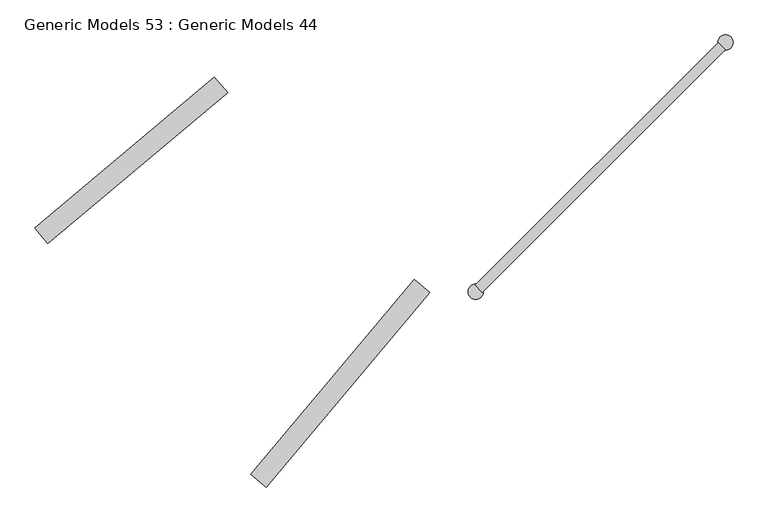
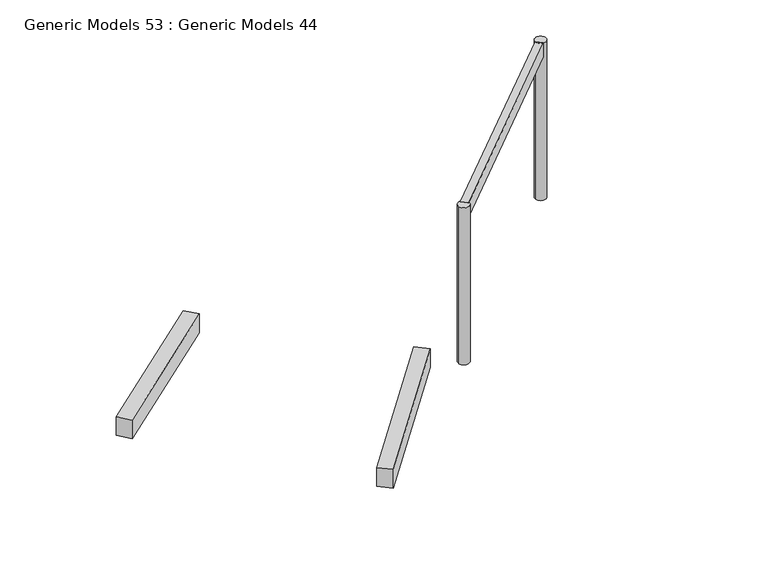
"""IFC4 building model written with IfcOpenShell, lengths in millimetres: proxy geometry, Generic Models 53 : Generic Models 44."""

from ifc_helpers import new_model, si_unit, point, frame, frame_2d, origin, place, context, project, spatial, polyline, circle_curve, trimmed, segment, composite_curve, outline, extrude, source, transform, mapped, element, save


def generic_models_53_generic_models_44_99a5b5ee(model_context):
    return source(origin(), model_context, "Body", "SweptSolid", [
        extrude(outline(polyline([(-86054.177163, -35737.0994253), (-86207.3860516, -35608.5419033), (-84596.358699, -33688.5942681), (-84443.1498104, -33817.1517901), (-86054.177163, -35737.0994253)])), frame((0.0, 0.0, 42770.0), z_axis=(0.0, 0.0, 1.0), x_axis=(1.0, 0.0, 0.0)), (0.0, 0.0, 1.0), 268.5053554),
        extrude(outline(polyline([(-88203.2040046, -33333.9533005), (-88331.7615265, -33180.7444118), (-86563.3938521, -31696.9077484), (-86434.8363301, -31850.116637), (-88203.2040046, -33333.9533005)])), frame((0.0, 0.0, 42770.0), z_axis=(0.0, 0.0, 1.0), x_axis=(1.0, 0.0, 0.0)), (0.0, 0.0, 1.0), 268.5053554),
        extrude(outline(polyline([(-83925.3674852, -33817.7796088), (-83996.0781633, -33747.0689307), (-81603.3631258, -31354.3538932), (-81532.6524477, -31425.0645713), (-83925.3674852, -33817.7796088)])), frame((0.0, 0.0, 44746.1646464), z_axis=(0.0, 0.0, 1.0), x_axis=(1.0, 0.0, 0.0)), (0.0, 0.0, 1.0), 195.4634247),
        extrude(outline(composite_curve([segment(trimmed(circle_curve(frame_2d((-83990.4346867, -33810.9678051)), 75.0), [point((-84065.4346867, -33810.9678051))], [point((-83915.4346867, -33810.9678051))], False, "CARTESIAN"), True, "CONTINUOUS"), segment(trimmed(circle_curve(frame_2d((-83990.4346867, -33810.9678051)), 75.0), [point((-83915.4346867, -33810.9678051))], [point((-84065.4346867, -33810.9678051))], False, "CARTESIAN"), True, "CONTINUOUS")], self_intersect=False)), frame((0.0, 0.0, 42695.9057084), z_axis=(0.0, 0.0, 1.0), x_axis=(1.0, 0.0, 0.0)), (0.0, 0.0, 1.0), 2245.7223627),
        extrude(outline(composite_curve([segment(trimmed(circle_curve(frame_2d((-81530.2459574, -31353.5552475)), 75.0), [point((-81605.2459574, -31353.5552475))], [point((-81455.2459574, -31353.5552475))], False, "CARTESIAN"), True, "CONTINUOUS"), segment(trimmed(circle_curve(frame_2d((-81530.2459574, -31353.5552475)), 75.0), [point((-81455.2459574, -31353.5552475))], [point((-81605.2459574, -31353.5552475))], False, "CARTESIAN"), True, "CONTINUOUS")], self_intersect=False)), frame((0.0, 0.0, 42695.9057084), z_axis=(0.0, 0.0, 1.0), x_axis=(1.0, 0.0, 0.0)), (0.0, 0.0, 1.0), 2245.7223627),
    ])


if __name__ == "__main__":
    model = new_model("IFC4")
    model_context = context("Model", 3, world=origin())
    ifc_project = project(units=[si_unit("LENGTHUNIT", "METRE", prefix="MILLI")], contexts=[model_context])
    site = spatial("IfcSite", under=ifc_project)
    building = spatial("IfcBuilding", under=site)
    placement = place(None, origin())
    generic_models_53_generic_models_44_shape = generic_models_53_generic_models_44_99a5b5ee(model_context)
    element("IfcBuildingElementProxy", 1, Name="Generic Models 53 : Generic Models 44", ObjectType="Generic Models 53 : Generic Models 44", at=placement, inside=building, context=model_context, shape_type="MappedRepresentation", body=[
        mapped(generic_models_53_generic_models_44_shape, transform((0.0, 0.0, 0.0), x_axis=(1.0, 0.0, 0.0), y_axis=(0.0, 1.0, 0.0), z_axis=(0.0, 0.0, 1.0))),
    ])
    save(model, "model.ifc")
